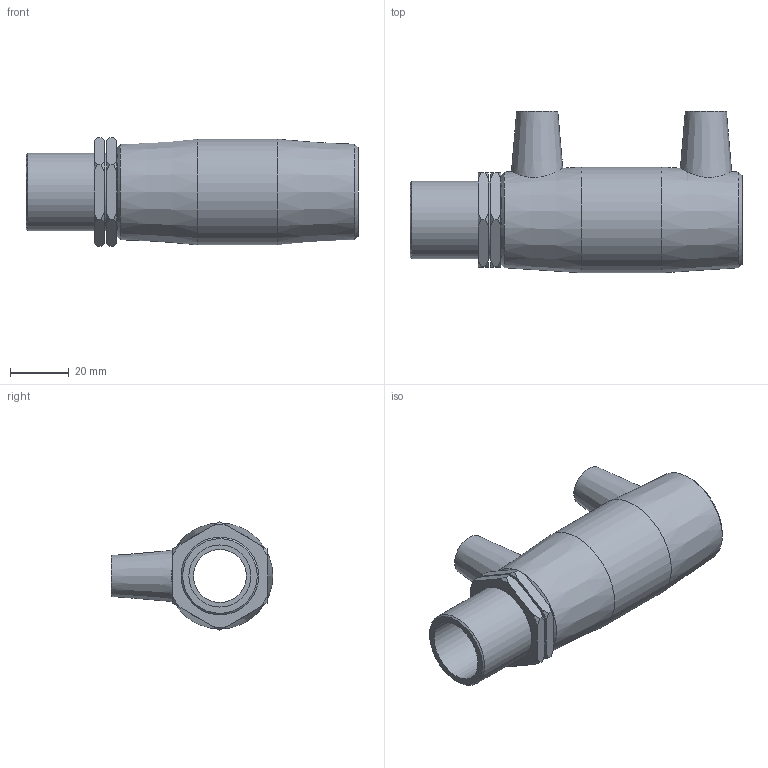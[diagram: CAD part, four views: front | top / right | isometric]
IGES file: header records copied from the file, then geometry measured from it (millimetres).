
Global section: file name: 497104025007.ipt; native system: Autodesk Inventor 2015; preprocessor: unknown; author: KIM; date: 20171106.094424; units: millimetre
Bounding box: 113 x 55 x 37.02 mm (x, y, z)
Volume: 62120.3 mm3; surface area: 25883.2 mm2
Topology: 1 solids, 2 shells, 75 faces, 186 edges, 126 vertices
Faces by surface type: cone 31, plane 29, revolution 8, cylinder 7
Full cylindrical faces by diameter (mm): 4 x2, 25 x2, 26.441 x2, 36 x1
